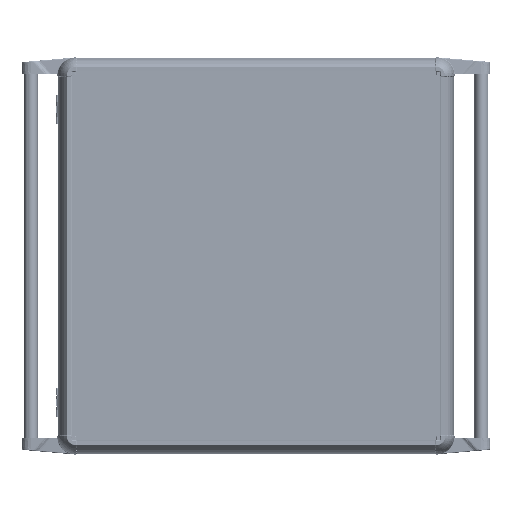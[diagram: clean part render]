
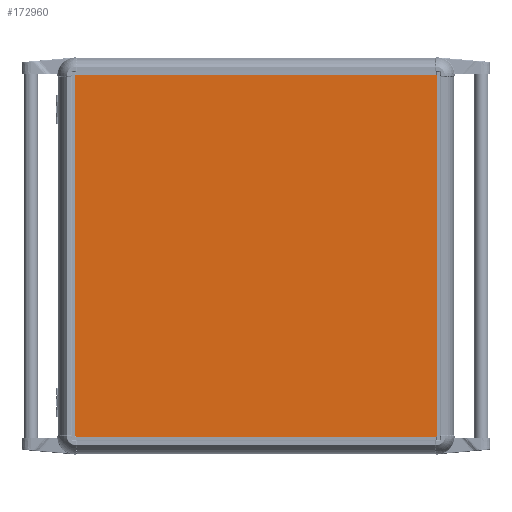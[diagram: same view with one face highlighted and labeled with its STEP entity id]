
A CAD part, top view. The second image highlights one B-rep face of the part: STEP entity #172960.
In plain terms, the highlighted planar face has unit normal (0, 0, 1).
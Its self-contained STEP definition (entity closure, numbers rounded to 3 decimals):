
#8036 = CARTESIAN_POINT ( 'NONE',  ( 250., -250., 2. ) ) ;
#17671 = CARTESIAN_POINT ( 'NONE',  ( 250., 250., 2. ) ) ;
#20456 = CARTESIAN_POINT ( 'NONE',  ( -250., -250., 2. ) ) ;
#22486 = ORIENTED_EDGE ( 'NONE', *, *, #218500, .T. ) ;
#25565 = VERTEX_POINT ( 'NONE', #45926 ) ;
#45926 = CARTESIAN_POINT ( 'NONE',  ( 250., 250., 2. ) ) ;
#55856 = ORIENTED_EDGE ( 'NONE', *, *, #333871, .T. ) ;
#57286 = EDGE_CURVE ( 'NONE', #193436, #225370, #253414, .T. ) ;
#64868 = DIRECTION ( 'NONE',  ( 0., 0., 1. ) ) ;
#76864 = VECTOR ( 'NONE', #195000, 1000. ) ;
#79879 = VECTOR ( 'NONE', #146775, 1000. ) ;
#83596 = AXIS2_PLACEMENT_3D ( 'NONE', #193536, #64868, #271348 ) ;
#90502 = CARTESIAN_POINT ( 'NONE',  ( -250., 250., 2. ) ) ;
#94223 = CARTESIAN_POINT ( 'NONE',  ( -250., 250., 2. ) ) ;
#99265 = CARTESIAN_POINT ( 'NONE',  ( -250., 250., 2. ) ) ;
#118979 = ORIENTED_EDGE ( 'NONE', *, *, #286768, .T. ) ;
#121118 = DIRECTION ( 'NONE',  ( 0., 1., 0. ) ) ;
#135951 = CARTESIAN_POINT ( 'NONE',  ( -250., -250., 2. ) ) ;
#144790 = VERTEX_POINT ( 'NONE', #8036 ) ;
#146515 = LINE ( 'NONE', #17671, #231059 ) ;
#146775 = DIRECTION ( 'NONE',  ( 0., -1., 0. ) ) ;
#166094 = ORIENTED_EDGE ( 'NONE', *, *, #57286, .T. ) ;
#172960 = ADVANCED_FACE ( 'NONE', ( #266431 ), #298399, .T. ) ;
#193436 = VERTEX_POINT ( 'NONE', #90502 ) ;
#193536 = CARTESIAN_POINT ( 'NONE',  ( 0., 0., 2. ) ) ;
#195000 = DIRECTION ( 'NONE',  ( 1., 0., 0. ) ) ;
#218500 = EDGE_CURVE ( 'NONE', #225370, #144790, #276199, .T. ) ;
#225370 = VERTEX_POINT ( 'NONE', #135951 ) ;
#231059 = VECTOR ( 'NONE', #121118, 1000. ) ;
#253414 = LINE ( 'NONE', #94223, #79879 ) ;
#256198 = EDGE_LOOP ( 'NONE', ( #55856, #118979, #166094, #22486 ) ) ;
#266431 = FACE_OUTER_BOUND ( 'NONE', #256198, .T. ) ;
#271348 = DIRECTION ( 'NONE',  ( 1., 0., 0. ) ) ;
#276199 = LINE ( 'NONE', #20456, #76864 ) ;
#286768 = EDGE_CURVE ( 'NONE', #25565, #193436, #331072, .T. ) ;
#298399 = PLANE ( 'NONE',  #83596 ) ;
#314909 = VECTOR ( 'NONE', #326005, 1000. ) ;
#326005 = DIRECTION ( 'NONE',  ( -1., 0., 0. ) ) ;
#331072 = LINE ( 'NONE', #99265, #314909 ) ;
#333871 = EDGE_CURVE ( 'NONE', #144790, #25565, #146515, .T. ) ;
